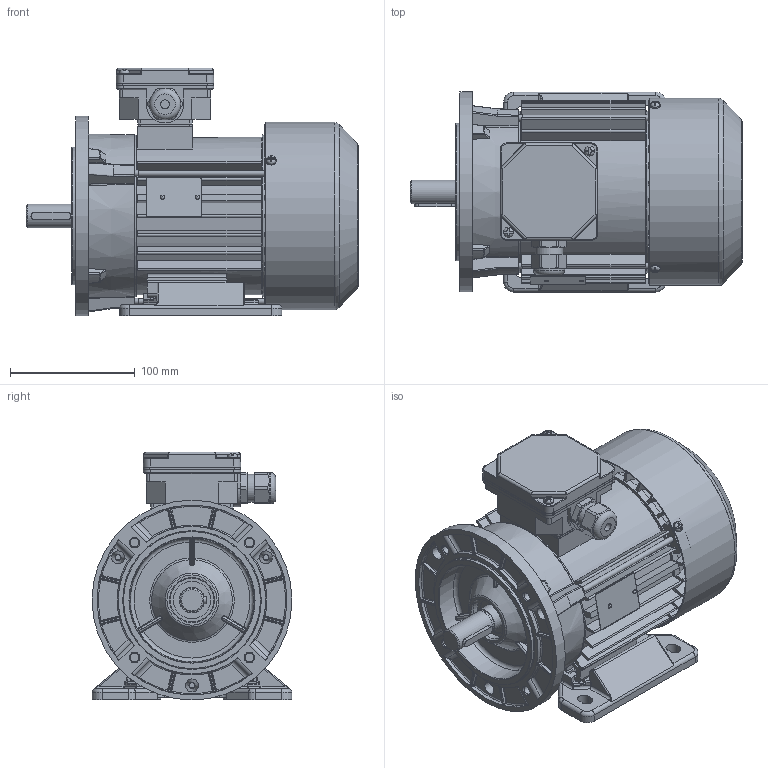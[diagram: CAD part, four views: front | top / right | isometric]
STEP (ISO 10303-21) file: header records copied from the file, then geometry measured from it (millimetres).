
FILE_DESCRIPTION(/* description */ ('Unknown'),/* implementation_level */ '2;1');
FILE_NAME(/* name */ 'SLh80-2A1',/* time_stamp */ '2019-02-13T11:42:25+01:00',/* author */ ('Klaudiusz Szlosek'),/* organization */ ('BESEL S.A.'),/* preprocessor_version */ 'ST-DEVELOPER v16.7',/* originating_system */ 'DEX',/* authorisation */ $);
FILE_SCHEMA (('AUTOMOTIVE_DESIGN {1 0 10303 214 3 1 1}'));
Products named in the file (1): SLh80-2A1
Bounding box: 265.77 x 160 x 198.5 mm (x, y, z)
Volume: 1046377.8 mm3; surface area: 522099.8 mm2
Topology: 2 solids, 2 shells, 2959 faces, 8184 edges, 5204 vertices
Faces by surface type: plane 1299, cylinder 910, bspline 406, torus 184, cone 134, sphere 26
Full cylindrical faces by diameter (mm): 2 x2, 2.4 x2, 3 x1, 3.7 x8, 4 x3, 4.2 x3, 4.5 x1, 4.6 x3, 4.8 x2, 5 x5, 5.5 x3, 6.5 x4, 6.8 x4, 7 x1, 8 x9, 18.596 x1, 18.996 x1, 19.296 x1, 19.496 x2, 19.896 x1, 20.296 x2, 20.396 x2, 20.4 x2, 22.3 x1, 25 x1, 25.495 x1, 25.645 x1, 25.995 x3, 26.045 x1, 28.796 x4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
Entity records: 120215 total; most frequent: CARTESIAN_POINT 28133, ORIENTED_EDGE 15554, DIRECTION 13988, EDGE_CURVE 7777, AXIS2_PLACEMENT_3D 5170, VERTEX_POINT 5078, LINE 3648, VECTOR 3648
